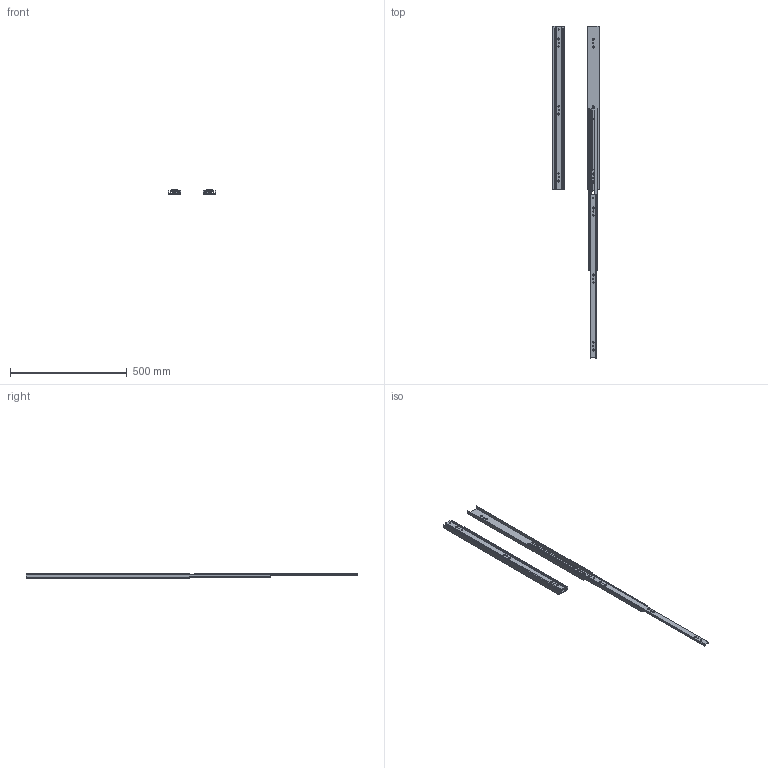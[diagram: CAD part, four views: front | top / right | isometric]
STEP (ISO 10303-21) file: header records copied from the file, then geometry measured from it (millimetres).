
FILE_DESCRIPTION( ( 'Unknown' ), '1' );
FILE_NAME( 'C:/Users/T170313/Desktop/76008-400~700/76008-700/76008-700(閉合+展長).stp', 'Unknown', ( 'Unknown' ), ( 'Unknown' ), 'PSStep 14.0', 'Unknown', ' ' );
FILE_SCHEMA( ( 'AUTOMOTIVE_DESIGN { 1 0 10303 214 1 1 1 1 }' ) );
Length unit declared in the file: millimetre
Products named in the file (6): 76008-700-\X2\5C55957\X0\; 外框-700; 中框-700; 內框-700; 76008-700; Assem1
Assembly tree (8 placements, depth 3):
  Assem1
    76008-700-\X2\5C55957\X0\
      外框-700
      中框-700
      內框-700
    76008-700
      外框-700
      中框-700
      內框-700
Bounding box: 202.13 x 1421.25 x 19 mm (x, y, z)
Volume: 501331.2 mm3; surface area: 522987.5 mm2
Topology: 6 solids, 6 shells, 672 faces, 2018 edges, 1346 vertices
Faces by surface type: plane 304, cylinder 272, cone 96
Full cylindrical faces by diameter (mm): 5 x16
Entity records: 14522 total; most frequent: CARTESIAN_POINT 2475, ORIENTED_EDGE 2000, DIRECTION 1906, EDGE_CURVE 1000, AXIS2_PLACEMENT_3D 679, VERTEX_POINT 672, LINE 548, VECTOR 548
